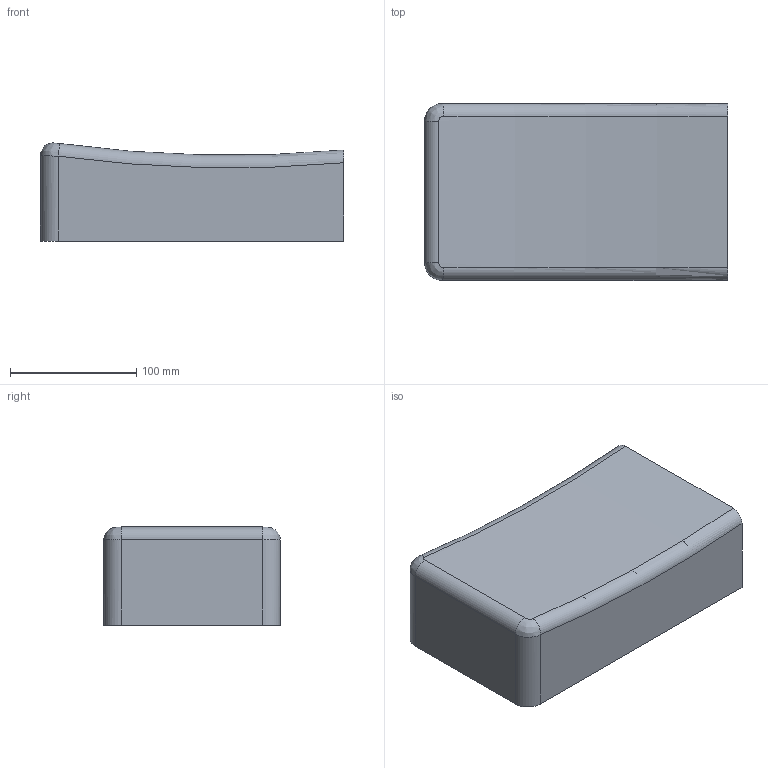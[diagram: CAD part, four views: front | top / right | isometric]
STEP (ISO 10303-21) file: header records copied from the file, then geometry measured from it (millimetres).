
FILE_DESCRIPTION(('Open CASCADE Model'),'2;1');
FILE_NAME('Open CASCADE Shape Model','2026-07-29T21:54:29',('Author'),( 'Open CASCADE'),'Open CASCADE STEP processor 7.9','Open CASCADE 7.9' ,'Unknown');
FILE_SCHEMA(('AUTOMOTIVE_DESIGN { 1 0 10303 214 1 1 1 1 }'));
Length unit declared in the file: millimetre
Products named in the file (1): split_v2_primary_shell
Bounding box: 239.85 x 140 x 77.74 mm (x, y, z)
Volume: 1163949.3 mm3; surface area: 140618.1 mm2
Topology: 1 solids, 1 shells, 44 faces, 95 edges, 62 vertices
Faces by surface type: plane 22, cylinder 18, bspline 2, torus 2
Full cylindrical faces by diameter (mm): 5.5 x2, 6 x4, 6.4 x2, 8 x1, 14 x1
Entity records: 3106 total; most frequent: CARTESIAN_POINT 1160, DIRECTION 348, ORIENTED_EDGE 190, PCURVE 190, DEFINITIONAL_REPRESENTATION 190, LINE 163, VECTOR 163, EDGE_CURVE 95
